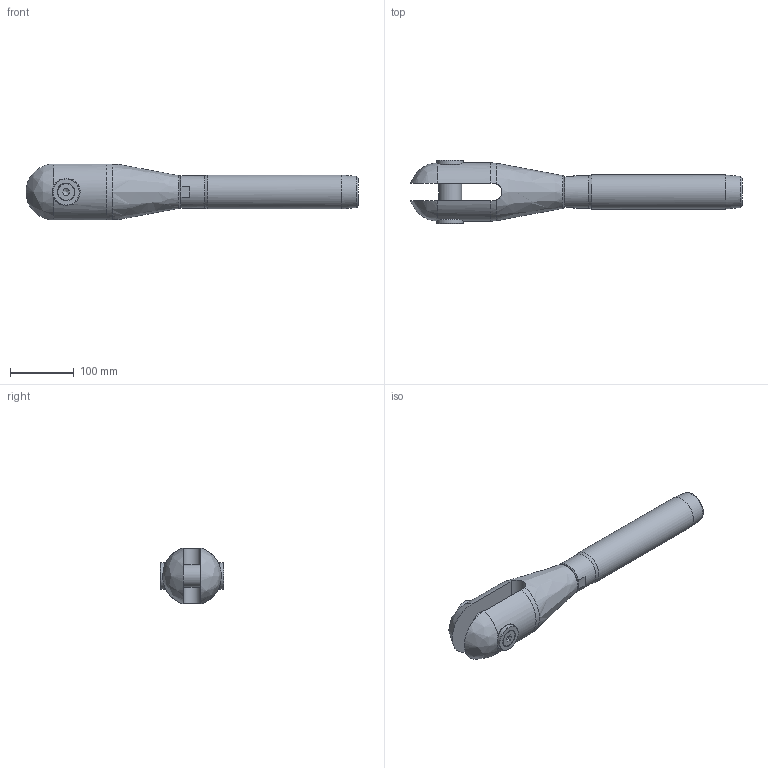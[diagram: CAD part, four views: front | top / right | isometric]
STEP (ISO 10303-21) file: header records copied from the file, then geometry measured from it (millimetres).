
FILE_DESCRIPTION(/* description */ (''),/* implementation_level */ '2;1');
FILE_NAME(/* name */ 'MAC-R 26_S355',/* time_stamp */ '2023-05-23T17:52:51+02:00',/* author */ (''),/* organization */ (''),/* preprocessor_version */ 'ST-DEVELOPER v16.5',/* originating_system */ 'Rhino 7.22',/* authorisation */ '');
FILE_SCHEMA (('CONFIG_CONTROL_DESIGN'));
Length unit declared in the file: millimetre
Products named in the file (1): Document
Bounding box: 521.43 x 99.79 x 87.95 mm (x, y, z)
Volume: 1557700 mm3; surface area: 181620.8 mm2
Topology: 7 solids, 7 shells, 87 faces, 245 edges, 171 vertices
Faces by surface type: plane 36, bspline 27, cylinder 24
Full cylindrical faces by diameter (mm): 11.835 x2, 14 x2, 14.5 x2, 26.52 x2, 36 x1, 38 x2, 41.752 x1, 42 x2, 45 x1, 50.8 x1, 53.4 x1
Entity records: 3499 total; most frequent: CARTESIAN_POINT 1943, ORIENTED_EDGE 480, EDGE_CURVE 240, VERTEX_POINT 171, EDGE_LOOP 99, B_SPLINE_CURVE_WITH_KNOTS 96, ADVANCED_FACE 87, FACE_OUTER_BOUND 87
